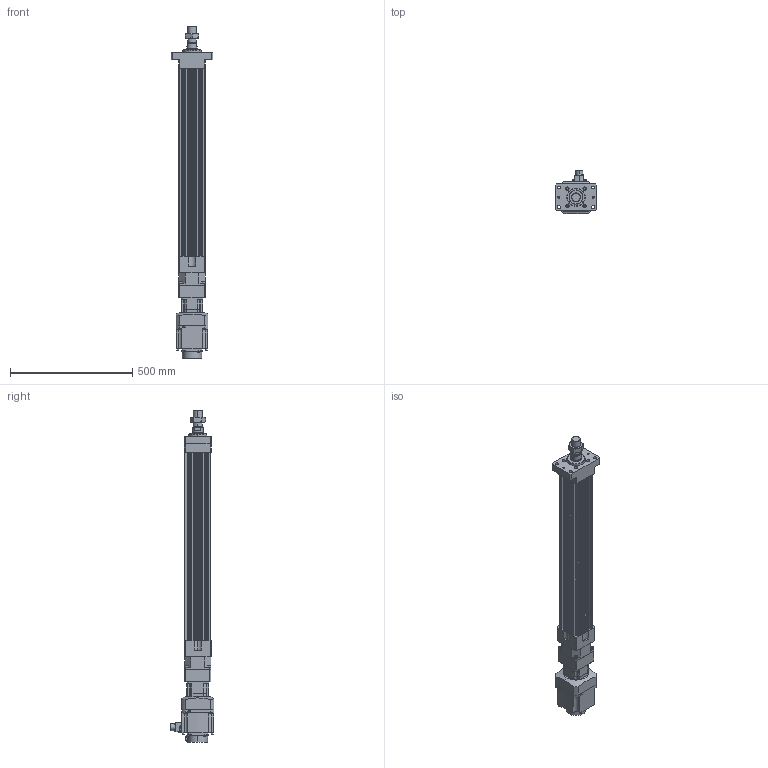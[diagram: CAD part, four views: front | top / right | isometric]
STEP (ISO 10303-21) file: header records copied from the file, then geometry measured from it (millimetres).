
FILE_DESCRIPTION (( 'STEP AP203' ), '1' );
FILE_NAME ('HES110NS(HS)-S600-W010G00-M-FM.STEP', '2023-01-27T07:33:18', ( 'tms' ), ( '' ), 'SwSTEP 2.0', 'SolidWorks 2013', '' );
FILE_SCHEMA (( 'CONFIG_CONTROL_DESIGN' ));
Length unit declared in the file: millimetre
Products named in the file (8): AB090-003[HG-SR102B]; HES110NS(HS)-S600-W010G00-M-FM; M36X1.5P; HES110-S600-G090-FM; HES110 ROD M ST600; AB0901; P0401301004; HG-SR102
Assembly tree (7 placements, depth 3):
  HES110NS(HS)-S600-W010G00-M-FM
    HES110-S600-G090-FM
    HES110 ROD M ST600
    M36X1.5P
    AB090-003[HG-SR102B]
      AB0901
      P0401301004
    HG-SR102
Bounding box: 170 x 177.49 x 1358.5 mm (x, y, z)
Volume: 8843399.3 mm3; surface area: 1222495.2 mm2
Topology: 4 solids, 15 shells, 1165 faces, 2950 edges, 1921 vertices
Faces by surface type: plane 558, cylinder 523, cone 72, bspline 8, torus 4
Entity records: 37081 total; most frequent: CARTESIAN_POINT 7224, DIRECTION 6367, ORIENTED_EDGE 5848, EDGE_CURVE 2934, AXIS2_PLACEMENT_3D 2335, VERTEX_POINT 1921, LINE 1697, VECTOR 1697
